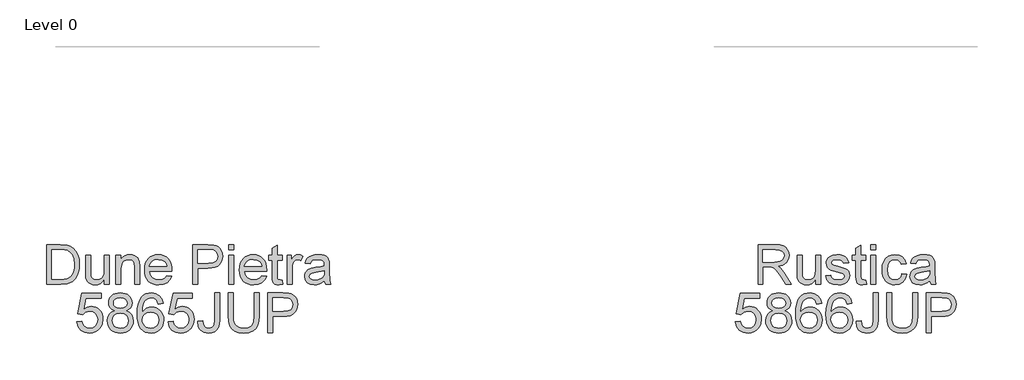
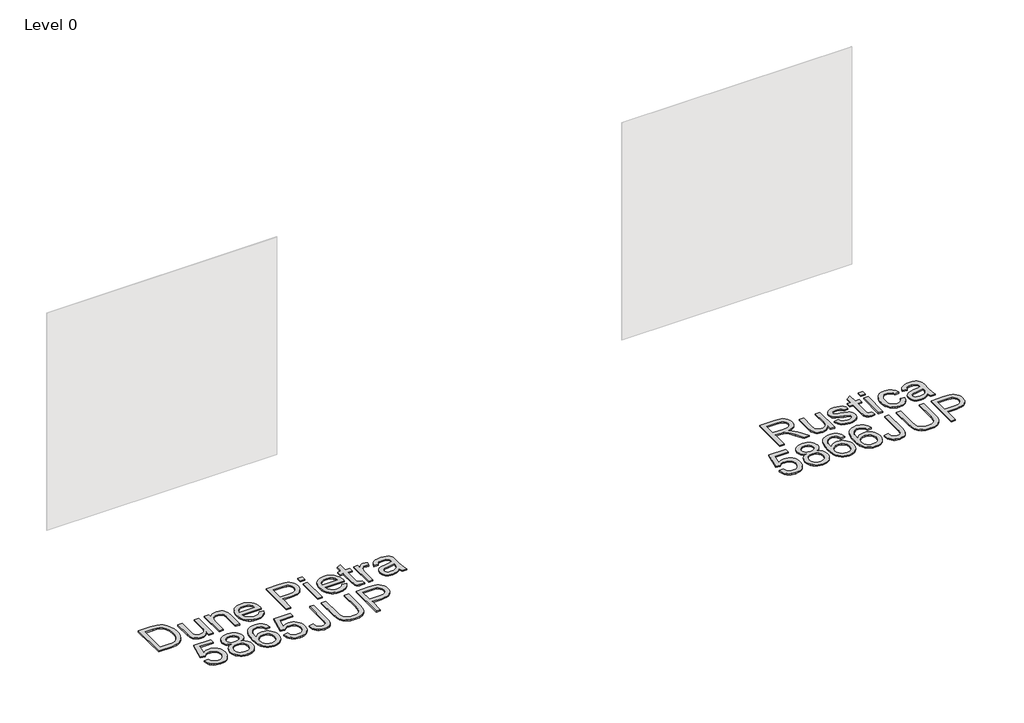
# One storey, part 23 of 29: 2 proxies.
"""IFC4 building model written with IfcOpenShell, lengths in millimetres."""

from ifc_helpers import new_model, si_unit, origin, origin_with_axes, place, context, project, spatial, polyline, outline, extrude, element, save

model = new_model("IFC4")

# Units and contexts
model_context = context("Model", 3, world=origin())
ifc_project = project(units=[si_unit("LENGTHUNIT", "METRE", prefix="MILLI")], contexts=[model_context])

# Site, building, storey
site = spatial("IfcSite", under=ifc_project)
building = spatial("IfcBuilding", under=site)
storey = spatial("IfcBuildingStorey", under=building, Name="Level 0", Elevation=0.0)

# Proxies
placement = place(None, origin())
element("IfcBuildingElementProxy", 1, Name="300mm Arial", ObjectType="300mm Arial", at=placement, inside=storey, context=model_context, shape_type="SweptSolid", body=[
    extrude(outline(polyline([(22883.034074, -7002.860494), (22883.034074, -6701.4915635), (23012.8964183, -6701.4915635), (23047.7992226, -6703.5241116), (23073.1922773, -6709.6217556), (23091.751924, -6720.8789447), (23106.1545041, -6738.3901276), (23115.3975392, -6760.1043624), (23118.4785509, -6783.9707069), (23113.3741883, -6813.6587839), (23098.0611002, -6838.2700893), (23086.461321, -6848.2994722), (23072.0794343, -6856.3147012), (23034.969338, -6866.3026974), (23056.3800702, -6882.4159288), (23086.9142758, -6921.1906911), (23137.1669563, -7002.860494), (23093.3889989, -7002.860494), (23054.1727782, -6940.3941312), (23025.8458646, -6899.0441949), (23005.9434486, -6879.509661), (22988.0275955, -6872.3359621), (22966.1754049, -6871.0115869), (22920.7051903, -6871.0115869), (22920.7051903, -7002.860494), (22883.034074, -7002.860494)]), holes=[polyline([(22920.7051903, -6833.3404706), (23005.0237436, -6833.3404706), (23029.239576, -6832.0068984), (23048.0291489, -6828.0061817), (23062.1742116, -6821.0716061), (23072.4565133, -6810.9364571), (23078.7197043, -6798.6767896), (23080.8074346, -6785.3686584), (23076.825112, -6766.9929528), (23064.8781442, -6752.1857025), (23044.3227378, -6742.4184355), (23014.5150991, -6739.1626798), (22920.7051903, -6739.1626798), (22920.7051903, -6833.3404706)])]), origin_with_axes(), (0.0, 0.0, 1.0), 10.0),
    extrude(outline(polyline([(23320.9608011, -7002.860494), (23320.9608011, -6964.8214957), (23307.3307732, -6983.5236966), (23291.4566651, -6996.8824116), (23273.3384768, -7004.8976405), (23252.9762084, -7007.5693835), (23234.6280939, -7005.6931853), (23217.5491722, -7000.0645908), (23203.2201685, -6991.6033049), (23193.1218078, -6981.2290327), (23181.9014069, -6953.4907302), (23179.6941149, -6918.4683643), (23179.6941149, -6781.5426857), (23217.3652312, -6781.5426857), (23217.3652312, -6900.7364521), (23219.6460996, -6939.1433324), (23225.1367384, -6951.9548229), (23234.5453204, -6961.6944987), (23247.2464463, -6967.8473251), (23262.6147167, -6969.8982672), (23278.8659038, -6967.8013398), (23294.0686272, -6961.5105577), (23306.6042062, -6951.605335), (23314.85396, -6938.6650858), (23319.4340908, -6920.9423707), (23320.9608011, -6896.6897502), (23320.9608011, -6781.5426857), (23358.6319174, -6781.5426857), (23358.6319174, -7002.860494), (23320.9608011, -7002.860494)])), origin_with_axes(), (0.0, 0.0, 1.0), 10.0),
    extrude(outline(polyline([(23396.3030337, -6936.9360404), (23433.97415, -6932.2271509), (23439.9154442, -6948.3403823), (23451.4117566, -6960.1861825), (23468.5366635, -6967.470246), (23491.3637413, -6969.8982672), (23513.9149076, -6967.6725811), (23529.7706215, -6960.9955229), (23539.1516124, -6951.3202265), (23542.2786094, -6940.0998256), (23539.1332183, -6930.4981055), (23529.6970452, -6923.1772538), (23490.9222829, -6912.4350996), (23434.1948792, -6894.0042116), (23419.8382843, -6884.7427824), (23409.4364209, -6872.4831149), (23403.1180477, -6858.0069584), (23401.0119232, -6842.0960621), (23402.7041804, -6827.5003439), (23407.7809519, -6814.0266659), (23415.7823853, -6802.2084568), (23426.2486281, -6792.5791455), (23450.197746, -6781.4323211), (23482.6081498, -6776.8337961), (23507.1274847, -6778.6824032), (23528.4462464, -6784.2282242), (23545.5895473, -6792.9286334), (23557.5825004, -6804.2410048), (23565.5287515, -6819.0022698), (23570.5319466, -6838.0493601), (23532.8608303, -6842.7582497), (23528.1059555, -6830.9032524), (23518.6973735, -6821.972917), (23504.5431137, -6816.3719136), (23485.5512057, -6814.5049125), (23463.9197444, -6816.2891401), (23449.4987702, -6821.6418232), (23441.3869722, -6829.3673451), (23438.6830395, -6838.2700893), (23443.1711999, -6849.2329728), (23457.2242921, -6857.5471059), (23489.6714841, -6865.5669334), (23544.9641479, -6883.2988455), (23559.5690632, -6891.7785255), (23570.6423112, -6903.3852025), (23577.6228721, -6918.1556646), (23579.9497257, -6936.1267001), (23577.2182019, -6954.7047408), (23569.0236304, -6972.1791356), (23555.6787111, -6987.1795239), (23537.4961434, -6998.3355454), (23515.5335883, -7005.260924), (23490.8487065, -7007.5693835), (23452.8648905, -7003.1180114), (23425.1449821, -6989.763895), (23406.6405178, -6967.654187), (23396.3030337, -6936.9360404)])), origin_with_axes(), (0.0, 0.0, 1.0), 10.0),
    extrude(outline(polyline([(23702.3808537, -6971.4433716), (23707.0897432, -7003.96414), (23678.9099824, -7007.5693835), (23660.8285823, -7006.005885), (23647.3457072, -7001.3153896), (23637.8175635, -6994.0865084), (23631.6003578, -6984.9078526), (23628.1790553, -6969.1441091), (23627.0386211, -6942.1599648), (23627.0386211, -6819.213802), (23598.7852838, -6819.213802), (23598.7852838, -6781.5426857), (23627.0386211, -6781.5426857), (23627.0386211, -6727.758338), (23664.7097374, -6705.6118419), (23664.7097374, -6781.5426857), (23702.3808537, -6781.5426857), (23702.3808537, -6819.213802), (23664.7097374, -6819.213802), (23664.7097374, -6941.0563188), (23666.6963002, -6960.4804881), (23673.1342351, -6967.3598814), (23685.9733167, -6969.8982672), (23702.3808537, -6971.4433716)])), origin_with_axes(), (0.0, 0.0, 1.0), 10.0),
    extrude(outline(polyline([(23740.05197, -6739.1626798), (23740.05197, -6701.4915635), (23777.7230863, -6701.4915635), (23777.7230863, -6739.1626798), (23740.05197, -6739.1626798)])), origin_with_axes(), (0.0, 0.0, 1.0), 10.0),
    extrude(outline(polyline([(23740.05197, -7002.860494), (23740.05197, -6781.5426857), (23777.7230863, -6781.5426857), (23777.7230863, -7002.860494), (23740.05197, -7002.860494)])), origin_with_axes(), (0.0, 0.0, 1.0), 10.0),
    extrude(outline(polyline([(23975.4964469, -6922.8093718), (24013.1675632, -6927.5182614), (24002.6645322, -6961.0231141), (23982.9276632, -6986.3425924), (23955.8147602, -7002.2626857), (23923.1836272, -7007.5693835), (23902.0557044, -7005.7184772), (23883.1120809, -7000.1657584), (23866.3527567, -6990.9112269), (23851.7777319, -6977.9548829), (23839.9802162, -6961.5404481), (23831.5534192, -6941.9116444), (23826.4973411, -6919.0684718), (23824.8119817, -6893.0109302), (23827.6906583, -6859.4876834), (23836.3266881, -6830.4342028), (23850.8580269, -6806.9725286), (23871.4226305, -6790.2247008), (23896.0247389, -6780.1815223), (23922.6685924, -6776.8337961), (23954.499582, -6781.4323211), (23979.947819, -6795.2278959), (23998.2039631, -6817.4847566), (24008.4586737, -6847.4671392), (23970.7875574, -6852.1760288), (23963.9541493, -6835.7409006), (23953.3131626, -6823.9594797), (23939.4532084, -6816.8685543), (23922.962898, -6814.5049125), (23898.618307, -6819.1586197), (23879.2953052, -6833.1197414), (23866.6861498, -6857.1424357), (23862.483098, -6891.9808606), (23866.5941793, -6927.2883351), (23878.9274232, -6951.3938029), (23897.9009371, -6965.2721511), (23921.9328284, -6969.8982672), (23941.4397712, -6967.0103936), (23957.4334409, -6958.3467726), (23969.067709, -6943.6866751), (23975.4964469, -6922.8093718)])), origin_with_axes(), (0.0, 0.0, 1.0), 10.0),
    extrude(outline(polyline([(24187.3964761, -6974.6071568), (24169.3978495, -6990.0398064), (24150.865794, -7000.1381672), (24131.3772453, -7005.7115794), (24110.5091391, -7007.5693835), (24079.0276374, -7003.0996173), (24055.8050865, -6989.6903186), (24041.4852798, -6969.3280501), (24036.7120109, -6943.9993748), (24038.5146327, -6928.3827841), (24043.922498, -6914.2009331), (24052.2642222, -6902.0608273), (24062.8684208, -6892.5694718), (24089.2455598, -6880.2086368), (24121.8399046, -6874.5432541), (24160.3571495, -6868.5835657), (24187.1757469, -6861.5938078), (24187.3964761, -6853.2060983), (24184.8029081, -6836.3938912), (24177.0222039, -6825.3942195), (24159.6213855, -6817.2272392), (24135.377962, -6814.5049125), (24112.9371603, -6816.3167313), (24097.2653873, -6821.7521878), (24086.5784153, -6831.8045633), (24079.0920167, -6847.4671392), (24041.4209004, -6842.7582497), (24047.9600029, -6822.156858), (24057.7180728, -6805.9700502), (24071.6056181, -6793.590821), (24090.5331468, -6784.4121652), (24113.6821213, -6778.7283884), (24140.2340043, -6776.8337961), (24165.7006355, -6778.5076592), (24185.8881599, -6783.5292485), (24201.1092775, -6791.0800264), (24211.6766878, -6800.3414556), (24218.6848398, -6811.7917827), (24223.2281825, -6825.9092543), (24225.0675924, -6858.8714811), (24225.0675924, -6905.7396473), (24226.9805788, -6971.1858542), (24234.4853715, -7002.860494), (24196.8142552, -7002.860494), (24187.3964761, -6974.6071568)]), holes=[polyline([(24187.3964761, -6899.2649241), (24126.6223705, -6910.8164188), (24094.2119667, -6916.9232599), (24079.5334751, -6926.8560738), (24074.3831272, -6941.3506244), (24077.1882274, -6952.5526311), (24085.6035281, -6961.7312869), (24099.4450881, -6967.8565221), (24118.5289666, -6969.8982672), (24138.7624764, -6967.64499), (24156.6415413, -6960.8851583), (24171.1360919, -6950.9247533), (24181.2160586, -6939.069756), (24185.6858248, -6926.8560738), (24187.1757469, -6909.933502), (24187.3964761, -6899.2649241)])]), origin_with_axes(), (0.0, 0.0, 1.0), 10.0),
    extrude(outline(polyline([(22711.1596059, -7288.7338254), (22748.8307222, -7284.0249358), (22755.7469037, -7306.6404815), (22767.8134331, -7322.8364863), (22784.9751282, -7332.5761621), (22807.1768066, -7335.8227207), (22834.1793451, -7331.3069693), (22854.4128548, -7317.7597148), (22867.0496013, -7296.7444558), (22871.2618502, -7269.8246908), (22867.3163158, -7244.4776213), (22855.4797126, -7225.0902402), (22835.6600701, -7212.7845875), (22807.7654178, -7208.6827032), (22789.4908797, -7210.3197781), (22774.6928264, -7215.2310027), (22753.5396117, -7232.2271509), (22715.8684954, -7227.5182614), (22748.8307222, -7072.1249066), (22894.8062979, -7072.1249066), (22894.8062979, -7109.7960229), (22779.2913514, -7109.7960229), (22763.17812, -7192.790201), (22790.0886879, -7176.4562404), (22818.2868429, -7171.0115869), (22836.6326581, -7172.6992456), (22853.4839528, -7177.7622215), (22868.8407268, -7186.2005148), (22882.7029802, -7198.0141254), (22894.1785992, -7212.4810848), (22902.3754699, -7228.8794248), (22907.2935923, -7247.2091452), (22908.9329665, -7267.470246), (22903.0284605, -7305.1413624), (22895.6478279, -7321.9351754), (22885.3149424, -7337.3678251), (22869.6615635, -7353.1729553), (22851.3962224, -7364.4623341), (22830.5189192, -7371.2359613), (22807.0296538, -7373.4938371), (22770.0299222, -7367.6904986), (22754.3512514, -7360.4363255), (22740.5533773, -7350.2804832), (22729.0731598, -7337.7288093), (22720.3474587, -7323.2871418), (22711.1596059, -7288.7338254)])), origin_with_axes(), (0.0, 0.0, 1.0), 10.0),
    extrude(outline(polyline([(22996.7831869, -7202.7965913), (22976.6140566, -7192.8637774), (22962.4597968, -7179.3992964), (22954.0996784, -7162.6790597), (22951.3129723, -7142.9789789), (22952.8304856, -7127.6153071), (22957.3830253, -7113.5300252), (22964.9705914, -7100.7231332), (22975.593184, -7089.1946312), (22988.7403668, -7079.6664875), (23003.9017035, -7072.8606706), (23040.2668388, -7067.4160171), (23076.8527032, -7072.9894293), (23092.1795868, -7079.9561946), (23105.5291047, -7089.709666), (23116.3448354, -7101.4634957), (23124.0703573, -7114.4313361), (23128.7056704, -7128.613187), (23130.2507748, -7144.0090485), (23127.5008569, -7163.0745329), (23119.2511031, -7179.509661), (23105.4095431, -7192.8913686), (23085.8842062, -7202.7965913), (23109.0699689, -7214.7435591), (23125.9465554, -7232.3375155), (23136.2380543, -7254.732332), (23139.6685539, -7281.0818799), (23137.9670996, -7299.8714528), (23132.862737, -7317.0975272), (23124.3554658, -7332.7601031), (23112.4452862, -7346.8591806), (23097.7575976, -7358.5118428), (23080.9177992, -7366.8351729), (23061.9258912, -7371.829171), (23040.7818736, -7373.4938371), (23019.6378559, -7371.8222732), (23000.6459479, -7366.8075818), (22983.8061496, -7358.4497627), (22969.1184609, -7346.748816), (22957.2082813, -7332.5508703), (22948.7010102, -7316.7020541), (22943.5966475, -7299.2023674), (22941.8951933, -7280.0518103), (22945.4636486, -7252.6813898), (22956.1690147, -7230.1670117), (22973.4594684, -7213.2812282), (22996.7831869, -7202.7965913)]), holes=[polyline([(22988.9840886, -7144.0826249), (22992.3226177, -7160.52695), (23002.3382051, -7173.6603373), (23018.736545, -7182.268776), (23041.223332, -7185.1382555), (23063.1858871, -7182.2871701), (23079.3359067, -7173.7339137), (23089.2687205, -7161.0419848), (23092.5796585, -7145.774882), (23089.1583559, -7129.9283651), (23078.8944483, -7116.822569), (23062.5236995, -7108.0209923), (23040.7818736, -7105.0871334), (23018.9020919, -7107.9566129), (23002.5589343, -7116.5650516), (22992.3778, -7129.1834041), (22988.9840886, -7144.0826249)]), polyline([(22979.5663096, -7278.7274351), (22985.8570917, -7307.0911369), (22994.5666979, -7319.2588339), (23008.1139524, -7328.317928), (23024.3375484, -7333.9465226), (23041.0761792, -7335.8227207), (23066.7175542, -7331.8771864), (23085.9577826, -7320.0405832), (23097.9875238, -7302.1155329), (23101.9974376, -7279.9046575), (23097.8587651, -7257.316703), (23085.4427478, -7238.9961796), (23065.761061, -7226.8560738), (23039.8253804, -7222.8093718), (23014.5426903, -7226.8008915), (22995.4956, -7238.7754504), (22983.5486322, -7256.7464859), (22979.5663096, -7278.7274351)])]), origin_with_axes(), (0.0, 0.0, 1.0), 10.0),
    extrude(outline(polyline([(23365.6952517, -7147.4671392), (23328.0241354, -7152.1760288), (23321.9540825, -7133.5060175), (23313.750314, -7120.7589064), (23296.6621953, -7109.0050766), (23276.0056213, -7105.0871334), (23258.4944383, -7107.3680017), (23242.0133249, -7114.2106069), (23227.8590652, -7128.622384), (23216.2983735, -7148.4604206), (23208.4900781, -7176.5206198), (23205.5930074, -7215.5988847), (23220.7037604, -7197.9681401), (23238.8127516, -7185.5429257), (23258.9083056, -7178.1760888), (23279.9787468, -7175.7204764), (23298.078541, -7177.3989381), (23314.7803836, -7182.4343229), (23330.0842746, -7190.8266309), (23343.990214, -7202.5758621), (23355.5463072, -7216.9830407), (23363.8006594, -7233.349191), (23368.7532708, -7251.6743129), (23370.4041412, -7271.9584064), (23367.2955384, -7298.9333537), (23357.9697298, -7323.9401323), (23343.1992677, -7345.1485293), (23323.7567043, -7360.7283318), (23300.5249563, -7370.3024607), (23274.3869405, -7373.4938371), (23251.930044, -7371.3785156), (23231.6482497, -7365.0325512), (23213.5415578, -7354.4559438), (23197.6099681, -7339.6486935), (23184.6214344, -7319.9854009), (23175.3439103, -7294.8406665), (23169.7773959, -7264.2144904), (23167.9218911, -7228.1068726), (23169.9820303, -7187.6260575), (23176.1624478, -7153.0773396), (23186.4631437, -7124.4607189), (23200.8841179, -7101.7761954), (23216.5145041, -7086.7436174), (23234.6372909, -7076.0060617), (23255.2524782, -7069.5635282), (23278.360066, -7067.4160171), (23311.4142633, -7072.7319119), (23337.8833729, -7088.6795964), (23356.4246254, -7114.0082718), (23365.6952517, -7147.4671392)]), holes=[polyline([(23205.5930074, -7271.3697952), (23207.7727082, -7288.0624407), (23214.3118107, -7304.0009282), (23224.4653538, -7317.7045325), (23237.4883764, -7327.6925287), (23253.2061346, -7333.7901727), (23271.4438845, -7335.8227207), (23296.3035104, -7331.6104719), (23315.8472414, -7318.9737254), (23328.511579, -7299.1080976), (23332.7330249, -7273.2092052), (23328.5667613, -7248.3495793), (23316.0679706, -7229.3944595), (23296.1931458, -7217.3923095), (23269.8987802, -7213.3915928), (23245.0759425, -7217.3923095), (23224.318201, -7229.3944595), (23210.2743058, -7247.8897269), (23205.5930074, -7271.3697952)])]), origin_with_axes(), (0.0, 0.0, 1.0), 10.0),
    extrude(outline(polyline([(23596.4308391, -7147.4671392), (23558.7597228, -7152.1760288), (23552.6896698, -7133.5060175), (23544.4859014, -7120.7589064), (23527.3977827, -7109.0050766), (23506.7412087, -7105.0871334), (23489.2300257, -7107.3680017), (23472.7489123, -7114.2106069), (23458.5946525, -7128.622384), (23447.0339608, -7148.4604206), (23439.2256655, -7176.5206198), (23436.3285948, -7215.5988847), (23451.4393477, -7197.9681401), (23469.5483389, -7185.5429257), (23489.6438929, -7178.1760888), (23510.7143342, -7175.7204764), (23528.8141284, -7177.3989381), (23545.5159709, -7182.4343229), (23560.8198619, -7190.8266309), (23574.7258014, -7202.5758621), (23586.2818945, -7216.9830407), (23594.5362468, -7233.349191), (23599.4888582, -7251.6743129), (23601.1397286, -7271.9584064), (23598.0311258, -7298.9333537), (23588.7053172, -7323.9401323), (23573.9348551, -7345.1485293), (23554.4922916, -7360.7283318), (23531.2605436, -7370.3024607), (23505.1225279, -7373.4938371), (23482.6656313, -7371.3785156), (23462.3838371, -7365.0325512), (23444.2771451, -7354.4559438), (23428.3455555, -7339.6486935), (23415.3570218, -7319.9854009), (23406.0794977, -7294.8406665), (23400.5129833, -7264.2144904), (23398.6574785, -7228.1068726), (23400.7176176, -7187.6260575), (23406.8980352, -7153.0773396), (23417.198731, -7124.4607189), (23431.6197052, -7101.7761954), (23447.2500915, -7086.7436174), (23465.3728783, -7076.0060617), (23485.9880656, -7069.5635282), (23509.0956534, -7067.4160171), (23542.1498507, -7072.7319119), (23568.6189602, -7088.6795964), (23587.1602128, -7114.0082718), (23596.4308391, -7147.4671392)]), holes=[polyline([(23436.3285948, -7271.3697952), (23438.5082956, -7288.0624407), (23445.0473981, -7304.0009282), (23455.2009411, -7317.7045325), (23468.2239638, -7327.6925287), (23483.941722, -7333.7901727), (23502.1794719, -7335.8227207), (23527.0390977, -7331.6104719), (23546.5828287, -7318.9737254), (23559.2471664, -7299.1080976), (23563.4686123, -7273.2092052), (23559.3023487, -7248.3495793), (23546.8035579, -7229.3944595), (23526.9287331, -7217.3923095), (23500.6343675, -7213.3915928), (23475.8115299, -7217.3923095), (23455.0537883, -7229.3944595), (23441.0098932, -7247.8897269), (23436.3285948, -7271.3697952)])]), origin_with_axes(), (0.0, 0.0, 1.0), 10.0),
    extrude(outline(polyline([(23629.3930658, -7284.1720886), (23667.0641821, -7279.3160463), (23670.9821254, -7306.7048608), (23679.940052, -7323.8297677), (23693.6252622, -7332.8244825), (23711.7250564, -7335.8227207), (23725.6401928, -7334.1212665), (23737.5135842, -7329.0169038), (23746.6738459, -7320.9786822), (23752.4495932, -7310.4756513), (23756.5330834, -7273.1356288), (23756.5330834, -7067.4160171), (23794.2041997, -7067.4160171), (23794.2041997, -7272.4734412), (23791.9325284, -7306.0150821), (23785.1175144, -7331.0034666), (23773.3636847, -7349.2596106), (23756.275566, -7362.60453), (23734.8188486, -7370.7715103), (23709.9592228, -7373.4938371), (23675.1391919, -7367.8744396), (23661.1918658, -7360.8501927), (23649.5529992, -7351.0162472), (23640.4295257, -7338.409391), (23634.028379, -7323.0664126), (23629.3930658, -7284.1720886)])), origin_with_axes(), (0.0, 0.0, 1.0), 10.0),
    extrude(outline(polyline([(24057.9020138, -7067.4160171), (24095.5731301, -7067.4160171), (24095.5731301, -7241.277048), (24093.0163503, -7281.9923878), (24085.3460107, -7313.3451308), (24071.017007, -7337.533372), (24048.4842347, -7356.7552063), (24017.6925118, -7369.3091794), (23978.5866557, -7373.4938371), (23940.3361252, -7369.8518053), (23909.7559344, -7358.92571), (23886.8368861, -7341.0926303), (23871.5697833, -7316.7296452), (23862.9889357, -7284.052527), (23860.1286532, -7241.277048), (23860.1286532, -7067.4160171), (23897.7997695, -7067.4160171), (23897.7997695, -7239.9526728), (23899.6575736, -7273.8070134), (23905.2309858, -7297.3790523), (23915.3293466, -7313.7038158), (23930.7619963, -7325.8163305), (23950.8851414, -7333.3211232), (23975.0549885, -7335.8227207), (24013.3698983, -7330.8747079), (24027.7126976, -7324.6896919), (24038.8457265, -7316.0306694), (24047.1828522, -7303.8537754), (24053.137942, -7287.1151446), (24057.9020138, -7239.9526728), (24057.9020138, -7067.4160171)])), origin_with_axes(), (0.0, 0.0, 1.0), 10.0),
    extrude(outline(polyline([(24161.4975837, -7368.7849475), (24161.4975837, -7067.4160171), (24273.1865574, -7067.4160171), (24318.2153136, -7070.2854966), (24338.2924735, -7075.6473767), (24354.8195721, -7084.375377), (24368.1277033, -7096.8649708), (24378.5479608, -7113.5116311), (24385.2802013, -7133.1473326), (24387.5242815, -7154.6040499), (24386.0090675, -7173.1039158), (24381.4634256, -7190.1230566), (24373.8873558, -7205.6614723), (24363.280858, -7219.7191631), (24348.7196288, -7231.3718253), (24329.2793646, -7239.6951554), (24304.9600655, -7244.6891535), (24275.7617314, -7246.3538195), (24199.1687, -7246.3538195), (24199.1687, -7368.7849475), (24161.4975837, -7368.7849475)]), holes=[polyline([(24199.1687, -7208.6827032), (24277.9690233, -7208.6827032), (24311.3727085, -7205.2246125), (24333.4456282, -7194.8503402), (24345.751281, -7178.2036799), (24349.8531652, -7155.9284251), (24347.4343411, -7139.0058533), (24340.1778687, -7124.7320319), (24328.985059, -7113.9898777), (24314.7572229, -7107.6623073), (24277.0861066, -7105.0871334), (24199.1687, -7105.0871334), (24199.1687, -7208.6827032)])]), origin_with_axes(), (0.0, 0.0, 1.0), 10.0),
])
element("IfcBuildingElementProxy", 2, Name="300mm Arial", ObjectType="300mm Arial", at=placement, inside=storey, context=model_context, shape_type="SweptSolid", body=[
    extrude(outline(polyline([(17480.4240185, -7002.860494), (17480.4240185, -6701.4915635), (17584.3874703, -6701.4915635), (17638.171818, -6705.8325711), (17662.1945123, -6714.2018865), (17682.4648103, -6727.390456), (17703.3053253, -6750.3462925), (17718.1493638, -6778.8939353), (17727.033714, -6812.4815615), (17729.995164, -6850.557348), (17727.9902072, -6882.9033724), (17721.9753365, -6911.3682418), (17712.8150749, -6935.6024682), (17701.3739448, -6955.2565638), (17688.2037694, -6970.771987), (17673.8563716, -6982.590196), (17657.3844552, -6991.3549846), (17637.8407242, -6997.710146), (17589.3906655, -7002.860494), (17480.4240185, -7002.860494)]), holes=[polyline([(17518.0951348, -6965.1893777), (17584.7553523, -6965.1893777), (17612.3281079, -6963.8282143), (17633.2421993, -6959.7447241), (17649.0243369, -6953.1780305), (17661.2012309, -6944.3672567), (17674.2886329, -6928.0608873), (17684.1202792, -6906.9536578), (17690.2731056, -6880.9535978), (17692.3240477, -6849.9687368), (17688.3049369, -6808.9131061), (17676.2476045, -6778.5996297), (17658.4329189, -6757.7775088), (17637.1417485, -6745.1959446), (17615.4734989, -6740.670996), (17583.7252828, -6739.1626798), (17518.0951348, -6739.1626798), (17518.0951348, -6965.1893777)])]), origin_with_axes(), (0.0, 0.0, 1.0), 10.0),
    extrude(outline(polyline([(17918.3507456, -7002.860494), (17918.3507456, -6964.8214957), (17904.7207176, -6983.5236966), (17888.8466096, -6996.8824116), (17870.7284213, -7004.8976405), (17850.3661529, -7007.5693835), (17832.0180383, -7005.6931853), (17814.9391167, -7000.0645908), (17800.610113, -6991.6033049), (17790.5117522, -6981.2290327), (17779.2913514, -6953.4907302), (17777.0840594, -6918.4683643), (17777.0840594, -6781.5426857), (17814.7551757, -6781.5426857), (17814.7551757, -6900.7364521), (17817.0360441, -6939.1433324), (17822.5266829, -6951.9548229), (17831.9352649, -6961.6944987), (17844.6363908, -6967.8473251), (17860.0046611, -6969.8982672), (17876.2558483, -6967.8013398), (17891.4585717, -6961.5105577), (17903.9941507, -6951.605335), (17912.2439044, -6938.6650858), (17916.8240353, -6920.9423707), (17918.3507456, -6896.6897502), (17918.3507456, -6781.5426857), (17956.0218619, -6781.5426857), (17956.0218619, -7002.860494), (17918.3507456, -7002.860494)])), origin_with_axes(), (0.0, 0.0, 1.0), 10.0),
    extrude(outline(polyline([(18007.8196468, -7002.860494), (18007.8196468, -6781.5426857), (18045.4907631, -6781.5426857), (18045.4907631, -6812.4447733), (18058.5781651, -6796.8649708), (18074.2959233, -6785.7365404), (18092.6440378, -6779.0594822), (18113.6225086, -6776.8337961), (18132.1913523, -6778.6272209), (18149.1966975, -6784.0074951), (18163.3785485, -6792.303234), (18173.4769092, -6802.8430532), (18184.7708865, -6830.5445674), (18186.7574492, -6866.964885), (18186.7574492, -7002.860494), (18149.0863329, -7002.860494), (18149.0863329, -6872.0416565), (18144.7453254, -6838.7115477), (18138.7396518, -6828.7879309), (18129.4046462, -6821.0900002), (18117.4392843, -6816.1511844), (18103.5425419, -6814.5049125), (18081.4788193, -6818.2021265), (18062.6708523, -6829.2937687), (18055.1545633, -6838.3482643), (18049.7857854, -6850.7228949), (18045.4907631, -6885.4325611), (18045.4907631, -7002.860494), (18007.8196468, -7002.860494)])), origin_with_axes(), (0.0, 0.0, 1.0), 10.0),
    extrude(outline(polyline([(18393.5071305, -6936.9360404), (18430.4424829, -6941.64493), (18417.1343517, -6969.4752029), (18395.8983635, -6990.2789297), (18367.2127649, -7003.2467701), (18331.5558025, -7007.5693835), (18308.1815003, -7005.7046817), (18287.3547808, -7000.1105761), (18269.0756442, -6990.7870668), (18253.3440904, -6977.7341537), (18240.6935483, -6961.3151204), (18231.6574468, -6941.8932503), (18226.2357859, -6919.4685435), (18224.4285656, -6894.0409998), (18226.25418, -6867.7512327), (18231.7310232, -6844.5792656), (18240.8590952, -6824.5250983), (18253.638396, -6807.5887309), (18269.3285631, -6794.133447), (18287.1892339, -6784.5225298), (18307.2204086, -6778.7559796), (18329.422087, -6776.8337961), (18350.9086948, -6778.751381), (18370.3397619, -6784.5041357), (18387.7152884, -6794.0920602), (18403.0352742, -6807.5151545), (18415.5409628, -6824.4147337), (18424.4735975, -6844.4321128), (18429.8331783, -6867.5672917), (18431.6197052, -6893.8202706), (18431.398976, -6903.9738137), (18262.0996819, -6903.9738137), (18268.6203902, -6932.1719686), (18283.7679314, -6952.902119), (18305.6293189, -6965.6492302), (18332.2915665, -6969.8982672), (18352.3411353, -6967.9300985), (18369.2269189, -6962.0255925), (18382.9489173, -6951.8168672), (18393.5071305, -6936.9360404)]), holes=[polyline([(18262.0996819, -6866.3026974), (18393.9485889, -6866.3026974), (18388.8534233, -6846.4002814), (18378.8654271, -6832.1632482), (18356.902872, -6818.9194964), (18329.2749342, -6814.5049125), (18303.8818795, -6818.0273826), (18282.8850146, -6828.5947929), (18268.2892964, -6845.0667092), (18262.0996819, -6866.3026974)])]), origin_with_axes(), (0.0, 0.0, 1.0), 10.0),
    extrude(outline(polyline([(18591.7219495, -7002.860494), (18591.7219495, -6701.4915635), (18703.4109233, -6701.4915635), (18748.4396795, -6704.3610431), (18768.5168394, -6709.7229232), (18785.043938, -6718.4509235), (18798.3520692, -6730.9405172), (18808.7723267, -6747.5871775), (18815.5045672, -6767.222879), (18817.7486474, -6788.6795964), (18816.2334334, -6807.1794622), (18811.6877915, -6824.198603), (18804.1117217, -6839.7370188), (18793.5052239, -6853.7947095), (18778.9439947, -6865.4473717), (18759.5037305, -6873.7707019), (18735.1844313, -6878.7647), (18705.9860972, -6880.429366), (18629.3930658, -6880.429366), (18629.3930658, -7002.860494), (18591.7219495, -7002.860494)]), holes=[polyline([(18629.3930658, -6842.7582497), (18708.1933892, -6842.7582497), (18741.5970744, -6839.3001589), (18763.6699941, -6828.9258867), (18775.9756468, -6812.2792264), (18780.0775311, -6790.0039716), (18777.6587069, -6773.0813998), (18770.4022346, -6758.8075784), (18759.2094249, -6748.0654241), (18744.9815887, -6741.7378538), (18707.3104724, -6739.1626798), (18629.3930658, -6739.1626798), (18629.3930658, -6842.7582497)])]), origin_with_axes(), (0.0, 0.0, 1.0), 10.0),
    extrude(outline(polyline([(18864.8375428, -6739.1626798), (18864.8375428, -6701.4915635), (18902.5086591, -6701.4915635), (18902.5086591, -6739.1626798), (18864.8375428, -6739.1626798)])), origin_with_axes(), (0.0, 0.0, 1.0), 10.0),
    extrude(outline(polyline([(18864.8375428, -7002.860494), (18864.8375428, -6781.5426857), (18902.5086591, -6781.5426857), (18902.5086591, -7002.860494), (18864.8375428, -7002.860494)])), origin_with_axes(), (0.0, 0.0, 1.0), 10.0),
    extrude(outline(polyline([(19113.9672299, -6936.9360404), (19150.9025822, -6941.64493), (19137.594451, -6969.4752029), (19116.3584629, -6990.2789297), (19087.6728643, -7003.2467701), (19052.0159019, -7007.5693835), (19028.6415996, -7005.7046817), (19007.8148802, -7000.1105761), (18989.5357435, -6990.7870668), (18973.8041897, -6977.7341537), (18961.1536476, -6961.3151204), (18952.1175461, -6941.8932503), (18946.6958852, -6919.4685435), (18944.8886649, -6894.0409998), (18946.7142793, -6867.7512327), (18952.1911225, -6844.5792656), (18961.3191945, -6824.5250983), (18974.0984953, -6807.5887309), (18989.7886624, -6794.133447), (19007.6493333, -6784.5225298), (19027.6805079, -6778.7559796), (19049.8821863, -6776.8337961), (19071.3687941, -6778.751381), (19090.7998612, -6784.5041357), (19108.1753877, -6794.0920602), (19123.4953736, -6807.5151545), (19136.0010621, -6824.4147337), (19144.9336968, -6844.4321128), (19150.2932777, -6867.5672917), (19152.0798046, -6893.8202706), (19151.8590754, -6903.9738137), (18982.5597812, -6903.9738137), (18989.0804896, -6932.1719686), (19004.2280307, -6952.902119), (19026.0894183, -6965.6492302), (19052.7516659, -6969.8982672), (19072.8012346, -6967.9300985), (19089.6870182, -6962.0255925), (19103.4090166, -6951.8168672), (19113.9672299, -6936.9360404)]), holes=[polyline([(18982.5597812, -6866.3026974), (19114.4086883, -6866.3026974), (19109.3135227, -6846.4002814), (19099.3255265, -6832.1632482), (19077.3629714, -6818.9194964), (19049.7350335, -6814.5049125), (19024.3419788, -6818.0273826), (19003.3451139, -6828.5947929), (18988.7493958, -6845.0667092), (18982.5597812, -6866.3026974)])]), origin_with_axes(), (0.0, 0.0, 1.0), 10.0),
    extrude(outline(polyline([(19269.802043, -6971.4433716), (19274.5109326, -7003.96414), (19246.3311718, -7007.5693835), (19228.2497717, -7006.005885), (19214.7668966, -7001.3153896), (19205.2387529, -6994.0865084), (19199.0215472, -6984.9078526), (19195.6002446, -6969.1441091), (19194.4598104, -6942.1599648), (19194.4598104, -6819.213802), (19166.2064732, -6819.213802), (19166.2064732, -6781.5426857), (19194.4598104, -6781.5426857), (19194.4598104, -6727.758338), (19232.1309267, -6705.6118419), (19232.1309267, -6781.5426857), (19269.802043, -6781.5426857), (19269.802043, -6819.213802), (19232.1309267, -6819.213802), (19232.1309267, -6941.0563188), (19234.1174895, -6960.4804881), (19240.5554244, -6967.3598814), (19253.3945061, -6969.8982672), (19269.802043, -6971.4433716)])), origin_with_axes(), (0.0, 0.0, 1.0), 10.0),
    extrude(outline(polyline([(19307.4731594, -7002.860494), (19307.4731594, -6781.5426857), (19340.4353861, -6781.5426857), (19340.4353861, -6814.2841833), (19352.6122802, -6795.3014723), (19363.832681, -6784.1178596), (19375.0898701, -6778.654812), (19387.3771287, -6776.8337961), (19406.1391105, -6779.7400639), (19425.1953978, -6788.4588672), (19412.6138336, -6822.2304343), (19399.3700817, -6816.4362929), (19386.1263299, -6814.5049125), (19374.8783379, -6816.3627165), (19364.8259624, -6821.9361288), (19356.7049674, -6830.8020848), (19351.2511168, -6842.5375205), (19346.6709859, -6863.5803706), (19345.1442757, -6886.5362071), (19345.1442757, -7002.860494), (19307.4731594, -7002.860494)])), origin_with_axes(), (0.0, 0.0, 1.0), 10.0),
    extrude(outline(polyline([(19590.0065316, -6974.6071568), (19572.007905, -6990.0398064), (19553.4758495, -7000.1381672), (19533.9873008, -7005.7115794), (19513.1191947, -7007.5693835), (19481.6376929, -7003.0996173), (19458.415142, -6989.6903186), (19444.0953353, -6969.3280501), (19439.3220664, -6943.9993748), (19441.1246882, -6928.3827841), (19446.5325535, -6914.2009331), (19454.8742778, -6902.0608273), (19465.4784763, -6892.5694718), (19491.8556153, -6880.2086368), (19524.4499601, -6874.5432541), (19562.967205, -6868.5835657), (19589.7858025, -6861.5938078), (19590.0065316, -6853.2060983), (19587.4129636, -6836.3938912), (19579.6322594, -6825.3942195), (19562.231441, -6817.2272392), (19537.9880175, -6814.5049125), (19515.5472158, -6816.3167313), (19499.8754428, -6821.7521878), (19489.1884709, -6831.8045633), (19481.7020723, -6847.4671392), (19444.030956, -6842.7582497), (19450.5700584, -6822.156858), (19460.3281283, -6805.9700502), (19474.2156737, -6793.590821), (19493.1432023, -6784.4121652), (19516.2921769, -6778.7283884), (19542.8440599, -6776.8337961), (19568.310691, -6778.5076592), (19588.4982155, -6783.5292485), (19603.719333, -6791.0800264), (19614.2867433, -6800.3414556), (19621.2948953, -6811.7917827), (19625.838238, -6825.9092543), (19627.677648, -6858.8714811), (19627.677648, -6905.7396473), (19629.5906343, -6971.1858542), (19637.095427, -7002.860494), (19599.4243107, -7002.860494), (19590.0065316, -6974.6071568)]), holes=[polyline([(19590.0065316, -6899.2649241), (19529.232426, -6910.8164188), (19496.8220223, -6916.9232599), (19482.1435307, -6926.8560738), (19476.9931827, -6941.3506244), (19479.7982829, -6952.5526311), (19488.2135836, -6961.7312869), (19502.0551437, -6967.8565221), (19521.1390222, -6969.8982672), (19541.3725319, -6967.64499), (19559.2515969, -6960.8851583), (19573.7461475, -6950.9247533), (19583.8261141, -6939.069756), (19588.2958804, -6926.8560738), (19589.7858025, -6909.933502), (19590.0065316, -6899.2649241)])]), origin_with_axes(), (0.0, 0.0, 1.0), 10.0),
    extrude(outline(polyline([(17711.1596059, -7288.7338254), (17748.8307222, -7284.0249358), (17755.7469037, -7306.6404815), (17767.8134331, -7322.8364863), (17784.9751282, -7332.5761621), (17807.1768066, -7335.8227207), (17834.1793451, -7331.3069693), (17854.4128548, -7317.7597148), (17867.0496013, -7296.7444558), (17871.2618502, -7269.8246908), (17867.3163158, -7244.4776213), (17855.4797126, -7225.0902402), (17835.6600701, -7212.7845875), (17807.7654178, -7208.6827032), (17789.4908797, -7210.3197781), (17774.6928264, -7215.2310027), (17753.5396117, -7232.2271509), (17715.8684954, -7227.5182614), (17748.8307222, -7072.1249066), (17894.8062979, -7072.1249066), (17894.8062979, -7109.7960229), (17779.2913514, -7109.7960229), (17763.17812, -7192.790201), (17790.0886879, -7176.4562404), (17818.2868429, -7171.0115869), (17836.6326581, -7172.6992456), (17853.4839528, -7177.7622215), (17868.8407268, -7186.2005148), (17882.7029802, -7198.0141254), (17894.1785992, -7212.4810848), (17902.3754699, -7228.8794248), (17907.2935923, -7247.2091452), (17908.9329665, -7267.470246), (17903.0284605, -7305.1413624), (17895.6478279, -7321.9351754), (17885.3149424, -7337.3678251), (17869.6615635, -7353.1729553), (17851.3962224, -7364.4623341), (17830.5189192, -7371.2359613), (17807.0296538, -7373.4938371), (17770.0299222, -7367.6904986), (17754.3512514, -7360.4363255), (17740.5533773, -7350.2804832), (17729.0731598, -7337.7288093), (17720.3474587, -7323.2871418), (17711.1596059, -7288.7338254)])), origin_with_axes(), (0.0, 0.0, 1.0), 10.0),
    extrude(outline(polyline([(17996.7831869, -7202.7965913), (17976.6140566, -7192.8637774), (17962.4597968, -7179.3992964), (17954.0996784, -7162.6790597), (17951.3129723, -7142.9789789), (17952.8304856, -7127.6153071), (17957.3830253, -7113.5300252), (17964.9705914, -7100.7231332), (17975.593184, -7089.1946312), (17988.7403668, -7079.6664875), (18003.9017035, -7072.8606706), (18040.2668388, -7067.4160171), (18076.8527032, -7072.9894293), (18092.1795868, -7079.9561946), (18105.5291047, -7089.709666), (18116.3448354, -7101.4634957), (18124.0703573, -7114.4313361), (18128.7056704, -7128.613187), (18130.2507748, -7144.0090485), (18127.5008569, -7163.0745329), (18119.2511031, -7179.509661), (18105.4095431, -7192.8913686), (18085.8842062, -7202.7965913), (18109.0699689, -7214.7435591), (18125.9465554, -7232.3375155), (18136.2380543, -7254.732332), (18139.6685539, -7281.0818799), (18137.9670996, -7299.8714528), (18132.862737, -7317.0975272), (18124.3554658, -7332.7601031), (18112.4452862, -7346.8591806), (18097.7575976, -7358.5118428), (18080.9177992, -7366.8351729), (18061.9258912, -7371.829171), (18040.7818736, -7373.4938371), (18019.6378559, -7371.8222732), (18000.6459479, -7366.8075818), (17983.8061496, -7358.4497627), (17969.1184609, -7346.748816), (17957.2082813, -7332.5508703), (17948.7010102, -7316.7020541), (17943.5966475, -7299.2023674), (17941.8951933, -7280.0518103), (17945.4636486, -7252.6813898), (17956.1690147, -7230.1670117), (17973.4594684, -7213.2812282), (17996.7831869, -7202.7965913)]), holes=[polyline([(17979.5663096, -7278.7274351), (17985.8570917, -7307.0911369), (17994.5666979, -7319.2588339), (18008.1139524, -7328.317928), (18024.3375484, -7333.9465226), (18041.0761792, -7335.8227207), (18066.7175542, -7331.8771864), (18085.9577826, -7320.0405832), (18097.9875238, -7302.1155329), (18101.9974376, -7279.9046575), (18097.8587651, -7257.316703), (18085.4427478, -7238.9961796), (18065.761061, -7226.8560738), (18039.8253804, -7222.8093718), (18014.5426903, -7226.8008915), (17995.4956, -7238.7754504), (17983.5486322, -7256.7464859), (17979.5663096, -7278.7274351)]), polyline([(17988.9840886, -7144.0826249), (17992.3226177, -7160.52695), (18002.3382051, -7173.6603373), (18018.736545, -7182.268776), (18041.223332, -7185.1382555), (18063.1858871, -7182.2871701), (18079.3359067, -7173.7339137), (18089.2687205, -7161.0419848), (18092.5796585, -7145.774882), (18089.1583559, -7129.9283651), (18078.8944483, -7116.822569), (18062.5236995, -7108.0209923), (18040.7818736, -7105.0871334), (18018.9020919, -7107.9566129), (18002.5589343, -7116.5650516), (17992.3778, -7129.1834041), (17988.9840886, -7144.0826249)])]), origin_with_axes(), (0.0, 0.0, 1.0), 10.0),
    extrude(outline(polyline([(18365.6952517, -7147.4671392), (18328.0241354, -7152.1760288), (18321.9540825, -7133.5060175), (18313.750314, -7120.7589064), (18296.6621953, -7109.0050766), (18276.0056213, -7105.0871334), (18258.4944383, -7107.3680017), (18242.0133249, -7114.2106069), (18227.8590652, -7128.622384), (18216.2983735, -7148.4604206), (18208.4900781, -7176.5206198), (18205.5930074, -7215.5988847), (18220.7037604, -7197.9681401), (18238.8127516, -7185.5429257), (18258.9083056, -7178.1760888), (18279.9787468, -7175.7204764), (18298.078541, -7177.3989381), (18314.7803836, -7182.4343229), (18330.0842746, -7190.8266309), (18343.990214, -7202.5758621), (18355.5463072, -7216.9830407), (18363.8006594, -7233.349191), (18368.7532708, -7251.6743129), (18370.4041412, -7271.9584064), (18367.2955384, -7298.9333537), (18357.9697298, -7323.9401323), (18343.1992677, -7345.1485293), (18323.7567043, -7360.7283318), (18300.5249563, -7370.3024607), (18274.3869405, -7373.4938371), (18251.930044, -7371.3785156), (18231.6482497, -7365.0325512), (18213.5415578, -7354.4559438), (18197.6099681, -7339.6486935), (18184.6214344, -7319.9854009), (18175.3439103, -7294.8406665), (18169.7773959, -7264.2144904), (18167.9218911, -7228.1068726), (18169.9820303, -7187.6260575), (18176.1624478, -7153.0773396), (18186.4631437, -7124.4607189), (18200.8841179, -7101.7761954), (18216.5145041, -7086.7436174), (18234.6372909, -7076.0060617), (18255.2524782, -7069.5635282), (18278.360066, -7067.4160171), (18311.4142633, -7072.7319119), (18337.8833729, -7088.6795964), (18356.4246254, -7114.0082718), (18365.6952517, -7147.4671392)]), holes=[polyline([(18205.5930074, -7271.3697952), (18207.7727082, -7288.0624407), (18214.3118107, -7304.0009282), (18224.4653538, -7317.7045325), (18237.4883764, -7327.6925287), (18253.2061346, -7333.7901727), (18271.4438845, -7335.8227207), (18296.3035104, -7331.6104719), (18315.8472414, -7318.9737254), (18328.511579, -7299.1080976), (18332.7330249, -7273.2092052), (18328.5667613, -7248.3495793), (18316.0679706, -7229.3944595), (18296.1931458, -7217.3923095), (18269.8987802, -7213.3915928), (18245.0759425, -7217.3923095), (18224.318201, -7229.3944595), (18210.2743058, -7247.8897269), (18205.5930074, -7271.3697952)])]), origin_with_axes(), (0.0, 0.0, 1.0), 10.0),
    extrude(outline(polyline([(18403.366368, -7288.7338254), (18441.0374843, -7284.0249358), (18447.9536658, -7306.6404815), (18460.0201953, -7322.8364863), (18477.1818903, -7332.5761621), (18499.3835687, -7335.8227207), (18526.3861072, -7331.3069693), (18546.6196169, -7317.7597148), (18559.2563635, -7296.7444558), (18563.4686123, -7269.8246908), (18559.5230779, -7244.4776213), (18547.6864747, -7225.0902402), (18527.8668322, -7212.7845875), (18499.9721799, -7208.6827032), (18481.6976418, -7210.3197781), (18466.8995886, -7215.2310027), (18445.7463739, -7232.2271509), (18408.0752575, -7227.5182614), (18441.0374843, -7072.1249066), (18587.01306, -7072.1249066), (18587.01306, -7109.7960229), (18471.4981135, -7109.7960229), (18455.3848821, -7192.790201), (18482.2954501, -7176.4562404), (18510.493605, -7171.0115869), (18528.8394202, -7172.6992456), (18545.6907149, -7177.7622215), (18561.0474889, -7186.2005148), (18574.9097424, -7198.0141254), (18586.3853613, -7212.4810848), (18594.582232, -7228.8794248), (18599.5003545, -7247.2091452), (18601.1397286, -7267.470246), (18595.2352226, -7305.1413624), (18587.8545901, -7321.9351754), (18577.5217045, -7337.3678251), (18561.8683256, -7353.1729553), (18543.6029846, -7364.4623341), (18522.7256813, -7371.2359613), (18499.2364159, -7373.4938371), (18462.2366843, -7367.6904986), (18446.5580135, -7360.4363255), (18432.7601394, -7350.2804832), (18421.2799219, -7337.7288093), (18412.5542208, -7323.2871418), (18403.366368, -7288.7338254)])), origin_with_axes(), (0.0, 0.0, 1.0), 10.0),
    extrude(outline(polyline([(18629.3930658, -7284.1720886), (18667.0641821, -7279.3160463), (18670.9821254, -7306.7048608), (18679.940052, -7323.8297677), (18693.6252622, -7332.8244825), (18711.7250564, -7335.8227207), (18725.6401928, -7334.1212665), (18737.5135842, -7329.0169038), (18746.6738459, -7320.9786822), (18752.4495932, -7310.4756513), (18756.5330834, -7273.1356288), (18756.5330834, -7067.4160171), (18794.2041997, -7067.4160171), (18794.2041997, -7272.4734412), (18791.9325284, -7306.0150821), (18785.1175144, -7331.0034666), (18773.3636847, -7349.2596106), (18756.275566, -7362.60453), (18734.8188486, -7370.7715103), (18709.9592228, -7373.4938371), (18675.1391919, -7367.8744396), (18661.1918658, -7360.8501927), (18649.5529992, -7351.0162472), (18640.4295257, -7338.409391), (18634.028379, -7323.0664126), (18629.3930658, -7284.1720886)])), origin_with_axes(), (0.0, 0.0, 1.0), 10.0),
    extrude(outline(polyline([(19057.9020138, -7067.4160171), (19095.5731301, -7067.4160171), (19095.5731301, -7241.277048), (19093.0163503, -7281.9923878), (19085.3460107, -7313.3451308), (19071.017007, -7337.533372), (19048.4842347, -7356.7552063), (19017.6925118, -7369.3091794), (18978.5866557, -7373.4938371), (18940.3361252, -7369.8518053), (18909.7559344, -7358.92571), (18886.8368861, -7341.0926303), (18871.5697833, -7316.7296452), (18862.9889357, -7284.052527), (18860.1286532, -7241.277048), (18860.1286532, -7067.4160171), (18897.7997695, -7067.4160171), (18897.7997695, -7239.9526728), (18899.6575736, -7273.8070134), (18905.2309858, -7297.3790523), (18915.3293466, -7313.7038158), (18930.7619963, -7325.8163305), (18950.8851414, -7333.3211232), (18975.0549885, -7335.8227207), (19013.3698983, -7330.8747079), (19027.7126976, -7324.6896919), (19038.8457265, -7316.0306694), (19047.1828522, -7303.8537754), (19053.137942, -7287.1151446), (19057.9020138, -7239.9526728), (19057.9020138, -7067.4160171)])), origin_with_axes(), (0.0, 0.0, 1.0), 10.0),
    extrude(outline(polyline([(19161.4975837, -7368.7849475), (19161.4975837, -7067.4160171), (19273.1865574, -7067.4160171), (19318.2153136, -7070.2854966), (19338.2924735, -7075.6473767), (19354.8195721, -7084.375377), (19368.1277033, -7096.8649708), (19378.5479608, -7113.5116311), (19385.2802013, -7133.1473326), (19387.5242815, -7154.6040499), (19386.0090675, -7173.1039158), (19381.4634256, -7190.1230566), (19373.8873558, -7205.6614723), (19363.280858, -7219.7191631), (19348.7196288, -7231.3718253), (19329.2793646, -7239.6951554), (19304.9600655, -7244.6891535), (19275.7617314, -7246.3538195), (19199.1687, -7246.3538195), (19199.1687, -7368.7849475), (19161.4975837, -7368.7849475)]), holes=[polyline([(19199.1687, -7208.6827032), (19277.9690233, -7208.6827032), (19311.3727085, -7205.2246125), (19333.4456282, -7194.8503402), (19345.751281, -7178.2036799), (19349.8531652, -7155.9284251), (19347.4343411, -7139.0058533), (19340.1778687, -7124.7320319), (19328.985059, -7113.9898777), (19314.7572229, -7107.6623073), (19277.0861066, -7105.0871334), (19199.1687, -7105.0871334), (19199.1687, -7208.6827032)])]), origin_with_axes(), (0.0, 0.0, 1.0), 10.0),
])

save(model, "model.ifc")
